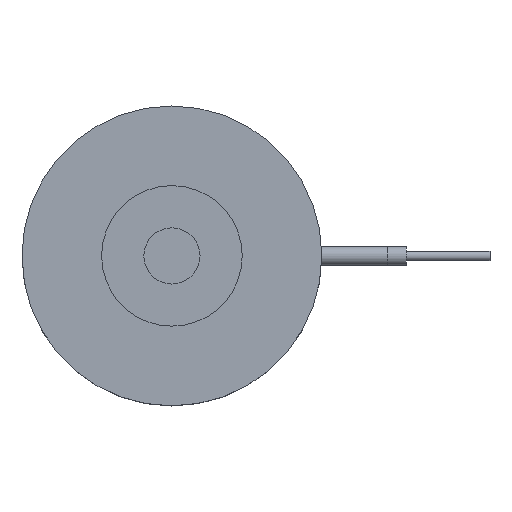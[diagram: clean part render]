
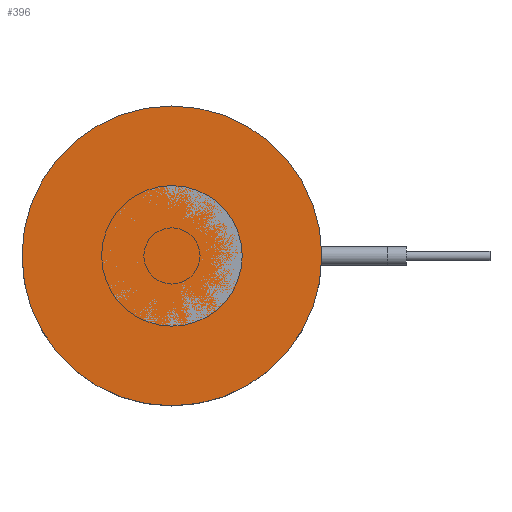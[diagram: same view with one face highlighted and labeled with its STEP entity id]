
A CAD part, top view. The second image highlights one B-rep face of the part: STEP entity #396.
In plain terms, the highlighted planar face has unit normal (0, 0, 1).
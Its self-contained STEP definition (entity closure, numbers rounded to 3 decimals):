
#396=ADVANCED_FACE('',(#496),#437,.F.);
#437=PLANE('',#1344);
#496=FACE_OUTER_BOUND('',#637,.T.);
#637=EDGE_LOOP('',(#873));
#873=ORIENTED_EDGE('',*,*,#1096,.F.);
#977=VERTEX_POINT('',#2169);
#1096=EDGE_CURVE('',#977,#977,#1178,.T.);
#1178=CIRCLE('',#1343,16.);
#1343=AXIS2_PLACEMENT_3D('',#2168,#1702,#1703);
#1344=AXIS2_PLACEMENT_3D('',#2170,#1704,#1705);
#1702=DIRECTION('',(0.,0.,-1.));
#1703=DIRECTION('',(-1.,0.,0.));
#1704=DIRECTION('',(0.,0.,-1.));
#1705=DIRECTION('',(-1.,0.,0.));
#2168=CARTESIAN_POINT('',(0.,0.,0.));
#2169=CARTESIAN_POINT('',(-16.,0.,0.));
#2170=CARTESIAN_POINT('',(0.,0.,0.));
